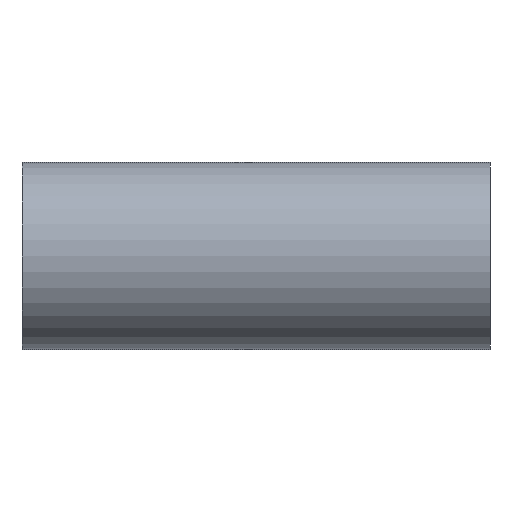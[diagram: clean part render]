
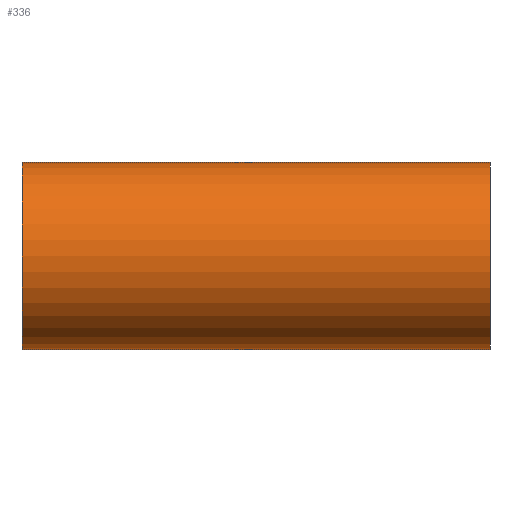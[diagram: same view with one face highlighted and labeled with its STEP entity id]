
A CAD part, front view. The second image highlights one B-rep face of the part: STEP entity #336.
In plain terms, the highlighted cylindrical face has radius 31.75 mm (diameter 63.5 mm), a partial arc.
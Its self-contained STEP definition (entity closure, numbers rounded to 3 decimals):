
#32 = VERTEX_POINT ( 'NONE', #410 ) ;
#68 = VECTOR ( 'NONE', #543, 1000. ) ;
#74 = AXIS2_PLACEMENT_3D ( 'NONE', #285, #179, #491 ) ;
#77 = VERTEX_POINT ( 'NONE', #264 ) ;
#90 = CARTESIAN_POINT ( 'NONE',  ( -79.4, 0., 31.75 ) ) ;
#94 = CIRCLE ( 'NONE', #304, 31.75 ) ;
#116 = DIRECTION ( 'NONE',  ( -1., 0., 0. ) ) ;
#129 = CIRCLE ( 'NONE', #552, 31.75 ) ;
#160 = DIRECTION ( 'NONE',  ( 1., 0., 0. ) ) ;
#169 = CYLINDRICAL_SURFACE ( 'NONE', #74, 31.75 ) ;
#178 = LINE ( 'NONE', #90, #68 ) ;
#179 = DIRECTION ( 'NONE',  ( 1., 0., 0. ) ) ;
#197 = EDGE_CURVE ( 'NONE', #555, #327, #178, .T. ) ;
#210 = ORIENTED_EDGE ( 'NONE', *, *, #315, .T. ) ;
#229 = LINE ( 'NONE', #561, #388 ) ;
#243 = DIRECTION ( 'NONE',  ( 1., 0., 0. ) ) ;
#250 = CARTESIAN_POINT ( 'NONE',  ( -79.4, 0., 31.75 ) ) ;
#263 = DIRECTION ( 'NONE',  ( 0., 0., -1. ) ) ;
#264 = CARTESIAN_POINT ( 'NONE',  ( -79.4, 0., -31.75 ) ) ;
#270 = CARTESIAN_POINT ( 'NONE',  ( 79.4, 0., 0. ) ) ;
#285 = CARTESIAN_POINT ( 'NONE',  ( -79.4, 0., 0. ) ) ;
#304 = AXIS2_PLACEMENT_3D ( 'NONE', #270, #116, #263 ) ;
#315 = EDGE_CURVE ( 'NONE', #32, #327, #94, .T. ) ;
#327 = VERTEX_POINT ( 'NONE', #369 ) ;
#336 = ADVANCED_FACE ( 'NONE', ( #356 ), #169, .T. ) ;
#356 = FACE_OUTER_BOUND ( 'NONE', #371, .T. ) ;
#369 = CARTESIAN_POINT ( 'NONE',  ( 79.4, 0., 31.75 ) ) ;
#371 = EDGE_LOOP ( 'NONE', ( #550, #444, #451, #210 ) ) ;
#388 = VECTOR ( 'NONE', #160, 1000. ) ;
#410 = CARTESIAN_POINT ( 'NONE',  ( 79.4, 0., -31.75 ) ) ;
#434 = EDGE_CURVE ( 'NONE', #555, #77, #129, .T. ) ;
#444 = ORIENTED_EDGE ( 'NONE', *, *, #434, .T. ) ;
#451 = ORIENTED_EDGE ( 'NONE', *, *, #467, .T. ) ;
#467 = EDGE_CURVE ( 'NONE', #77, #32, #229, .T. ) ;
#491 = DIRECTION ( 'NONE',  ( 0., 0., -1. ) ) ;
#516 = CARTESIAN_POINT ( 'NONE',  ( -79.4, 0., 0. ) ) ;
#543 = DIRECTION ( 'NONE',  ( 1., 0., 0. ) ) ;
#550 = ORIENTED_EDGE ( 'NONE', *, *, #197, .F. ) ;
#552 = AXIS2_PLACEMENT_3D ( 'NONE', #516, #243, #563 ) ;
#555 = VERTEX_POINT ( 'NONE', #250 ) ;
#561 = CARTESIAN_POINT ( 'NONE',  ( -79.4, 0., -31.75 ) ) ;
#563 = DIRECTION ( 'NONE',  ( 0., 0., -1. ) ) ;
